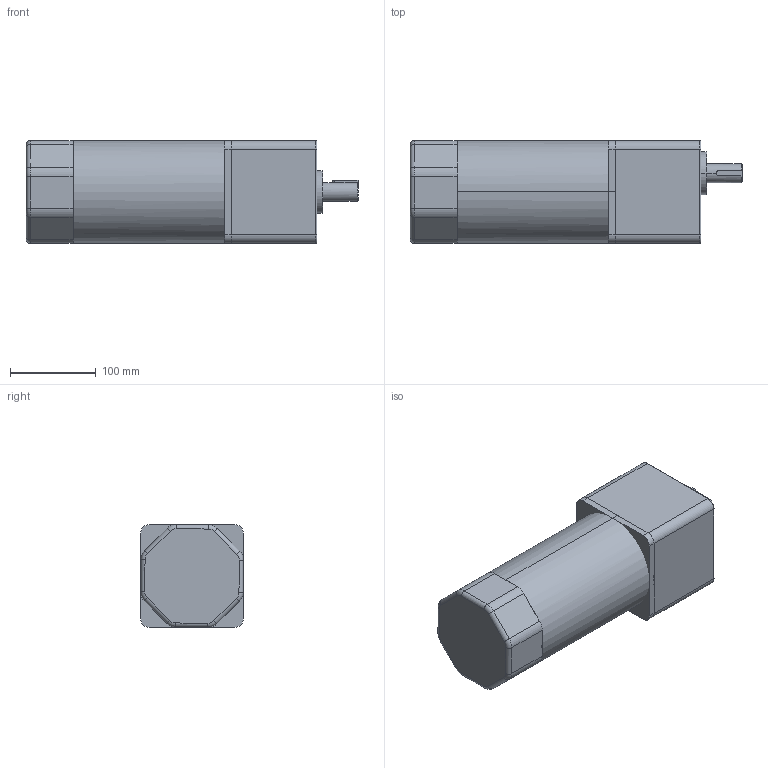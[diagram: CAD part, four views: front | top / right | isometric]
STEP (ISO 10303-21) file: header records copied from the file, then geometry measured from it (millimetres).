
FILE_DESCRIPTION (( 'STEP AP203' ), '1' );
FILE_NAME ('700W-(3-750K).STEP', '2018-04-13T06:53:18', ( '微软用户' ), ( '微软中国' ), 'SwSTEP 2.0', 'SolidWorks 2014', '' );
FILE_SCHEMA (( 'CONFIG_CONTROL_DESIGN' ));
Length unit declared in the file: millimetre
Products named in the file (1): 700W-(3-750K)
Bounding box: 388 x 120.19 x 120.19 mm (x, y, z)
Volume: 4312026.1 mm3; surface area: 228134.3 mm2
Topology: 4 solids, 4 shells, 115 faces, 268 edges, 160 vertices
Faces by surface type: cylinder 46, plane 41, torus 19, cone 9
Entity records: 3324 total; most frequent: DIRECTION 617, CARTESIAN_POINT 574, ORIENTED_EDGE 520, EDGE_CURVE 260, AXIS2_PLACEMENT_3D 245, VERTEX_POINT 160, CIRCLE 129, LINE 127
